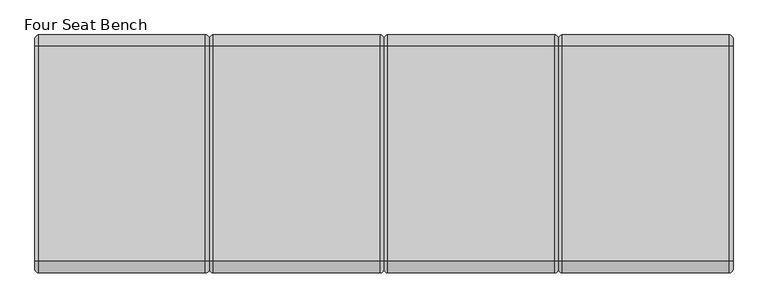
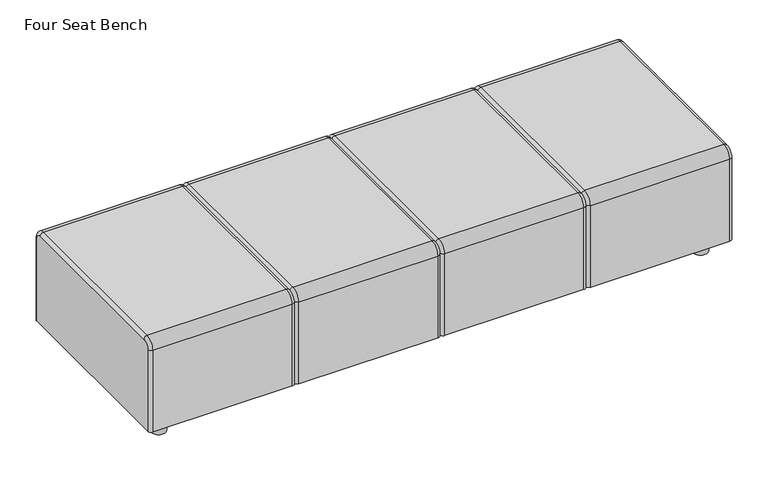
"""IFC4 building model written with IfcOpenShell, lengths in millimetres: furniture geometry, Steelcase Coalesse - Await - Seating - Modular : Four Seat Bench."""

import ifcopenshell
import ifcopenshell.guid

model = None  # the IFC model being written
_history = None  # IfcOwnerHistory: only IFC2X3 demands one
_inside = {}  # id of a spatial element -> (the spatial element, [elements in it])
_under = {}  # id of a project, library or spatial element -> (it, [spatial elements below it])
_declared = {}  # id of a project -> (the project, [libraries it declares])
_typed = {}  # id of a type object -> (the type object, [elements of that type])
_made_of = {}  # id of a material, layer set ... -> (it, [elements and type objects made of it])


def new_model(schema):
    """Start an empty IFC model of exactly this schema.

    Asked for "IFC4X3", IfcOpenShell would pick the latest addendum, in which some entities
    have other attributes; the version numbers below select the first issue.
    IFC2X3 requires an IfcOwnerHistory on every rooted entity: one is made here for all.
    """
    global model, _history
    if schema == "IFC4X3":
        model = ifcopenshell.file(schema_version=(4, 3, 0, 0))
    else:
        model = ifcopenshell.file(schema=schema)
    _inside.clear()
    _under.clear()
    _declared.clear()
    _typed.clear()
    _made_of.clear()
    _history = None
    if model.schema == "IFC2X3":
        org = make("IfcOrganization", Name="unknown")
        user = make(
            "IfcPersonAndOrganization",
            ThePerson=make("IfcPerson", FamilyName="unknown"),
            TheOrganization=org,
        )
        app = make(
            "IfcApplication",
            ApplicationDeveloper=org,
            Version="unknown",
            ApplicationFullName="unknown",
            ApplicationIdentifier="unknown",
        )
        _history = make(
            "IfcOwnerHistory",
            OwningUser=user,
            OwningApplication=app,
            ChangeAction="ADDED",
            CreationDate=0,
        )
    return model


def make(cls, **values):
    """One entity of the class cls with the attributes given. An attribute that is None is left unset."""
    return model.create_entity(
        cls, **{name: value for name, value in values.items() if value is not None}
    )


def rooted(cls, **values):
    """An entity with a GlobalId (a new one), such as an element, a storey or a relation."""
    return make(cls, GlobalId=ifcopenshell.guid.new(), OwnerHistory=_history, **values)


def si_unit(unit_type, name, prefix=None):
    """IfcSIUnit, for example si_unit("LENGTHUNIT", "METRE", prefix="MILLI")."""
    return make("IfcSIUnit", UnitType=unit_type, Prefix=prefix, Name=name)


def assignment(units):
    """IfcUnitAssignment: the units of a project."""
    return None if units is None else make("IfcUnitAssignment", Units=units)


def point(xyz):
    """IfcCartesianPoint."""
    return None if xyz is None else make("IfcCartesianPoint", Coordinates=xyz)


def direction(xyz):
    """IfcDirection."""
    return None if xyz is None else make("IfcDirection", DirectionRatios=xyz)


def frame(location, z_axis=None, x_axis=None):
    """IfcAxis2Placement3D, a coordinate frame: its origin and axes. An axis left out is left unset."""
    return make(
        "IfcAxis2Placement3D",
        Location=point(location),
        Axis=direction(z_axis),
        RefDirection=direction(x_axis),
    )


def frame_2d(location, x_axis=None):
    """IfcAxis2Placement2D, a coordinate frame in the plane: its origin and x axis."""
    return make(
        "IfcAxis2Placement2D", Location=point(location), RefDirection=direction(x_axis)
    )


def origin():
    """The frame at (0, 0, 0) with its axes left unset."""
    return frame((0.0, 0.0, 0.0))


def origin_with_axes():
    """The frame at (0, 0, 0) with the z axis (0, 0, 1) and the x axis (1, 0, 0) written out."""
    return frame((0.0, 0.0, 0.0), z_axis=(0.0, 0.0, 1.0), x_axis=(1.0, 0.0, 0.0))


def place(relative_to, where):
    """IfcLocalPlacement: puts the frame where relative to a parent placement (None: the world)."""
    return make(
        "IfcLocalPlacement", PlacementRelTo=relative_to, RelativePlacement=where
    )


def context(
    kind, dimensions, precision=None, world=None, true_north=None, identifier=None
):
    """IfcGeometricRepresentationContext, for example the 3D "Model" context."""
    return make(
        "IfcGeometricRepresentationContext",
        ContextIdentifier=identifier,
        ContextType=kind,
        CoordinateSpaceDimension=dimensions,
        Precision=precision,
        WorldCoordinateSystem=world,
        TrueNorth=true_north,
    )


def project(units=None, contexts=None):
    """IfcProject with its units and contexts."""
    return rooted(
        "IfcProject",
        Name="project",
        RepresentationContexts=contexts,
        UnitsInContext=assignment(units),
    )


def spatial(cls, under=None, at=None, **own):
    """A site, building, storey or space (cls), placed at a placement, below another one or the project."""
    s = rooted(cls, ObjectPlacement=at, **own)
    if under is not None:
        _under.setdefault(under.id(), (under, []))[1].append(s)
    return s


def circle_curve(where, radius):
    """IfcCircle in the frame where."""
    return make("IfcCircle", Position=where, Radius=radius)


def ellipse_curve(where, semi_axis1, semi_axis2):
    """IfcEllipse in the frame where."""
    return make(
        "IfcEllipse", Position=where, SemiAxis1=semi_axis1, SemiAxis2=semi_axis2
    )


def trimmed(basis, trim1, trim2, sense, master):
    """IfcTrimmedCurve: the piece of a basis curve between two trims."""
    return make(
        "IfcTrimmedCurve",
        BasisCurve=basis,
        Trim1=trim1,
        Trim2=trim2,
        SenseAgreement=sense,
        MasterRepresentation=master,
    )


def segment(curve, same_sense, transition):
    """IfcCompositeCurveSegment."""
    return make(
        "IfcCompositeCurveSegment",
        Transition=transition,
        SameSense=same_sense,
        ParentCurve=curve,
    )


def composite_curve(segments, self_intersect=None):
    """IfcCompositeCurve: segments joined end to end."""
    return make("IfcCompositeCurve", Segments=segments, SelfIntersect=self_intersect)


def outline(outer, holes=None, kind="AREA"):
    """IfcArbitraryClosedProfileDef: a profile drawn as a closed curve; with holes, ...WithVoids."""
    if holes is None:
        return make("IfcArbitraryClosedProfileDef", ProfileType=kind, OuterCurve=outer)
    return make(
        "IfcArbitraryProfileDefWithVoids",
        ProfileType=kind,
        OuterCurve=outer,
        InnerCurves=holes,
    )


def extrude(swept, where, along, depth):
    """IfcExtrudedAreaSolid: the profile swept, set in the frame where, extruded along a direction by depth."""
    return make(
        "IfcExtrudedAreaSolid",
        SweptArea=swept,
        Position=where,
        ExtrudedDirection=direction(along),
        Depth=depth,
    )


def shape(context_of_items, identifier, shape_type, items):
    """IfcShapeRepresentation: the items that make up one representation, for example the "Body"."""
    return make(
        "IfcShapeRepresentation",
        ContextOfItems=context_of_items,
        RepresentationIdentifier=identifier,
        RepresentationType=shape_type,
        Items=items,
    )


def source(mapping_origin, context_of_items, identifier, shape_type, items):
    """IfcRepresentationMap: a shape defined once, which mapped items show again and again."""
    return make(
        "IfcRepresentationMap",
        MappingOrigin=mapping_origin,
        MappedRepresentation=shape(context_of_items, identifier, shape_type, items),
    )


def transform(
    local_origin,
    x_axis=None,
    y_axis=None,
    z_axis=None,
    scale=None,
    scale2=None,
    scale3=None,
    uniform=True,
):
    """IfcCartesianTransformationOperator3D, or its non-uniform kind. x_axis, y_axis, z_axis: its Axis1, 2, 3."""
    if uniform:
        return make(
            "IfcCartesianTransformationOperator3D",
            Axis1=direction(x_axis),
            Axis2=direction(y_axis),
            LocalOrigin=point(local_origin),
            Scale=scale,
            Axis3=direction(z_axis),
        )
    return make(
        "IfcCartesianTransformationOperator3DnonUniform",
        Axis1=direction(x_axis),
        Axis2=direction(y_axis),
        LocalOrigin=point(local_origin),
        Scale=scale,
        Axis3=direction(z_axis),
        Scale2=scale2,
        Scale3=scale3,
    )


def mapped(mapping_source, mapping_target):
    """IfcMappedItem: shows the shape of a source again, moved by a transform."""
    return make(
        "IfcMappedItem", MappingSource=mapping_source, MappingTarget=mapping_target
    )


def made_of(thing, what):
    """Note that an element or type object is made of a material, layer set ...; save() writes the relation."""
    if what is not None:
        _made_of.setdefault(what.id(), (what, []))[1].append(thing)
    return thing


def element(
    cls,
    number,
    at=None,
    inside=None,
    cuts=None,
    type_object=None,
    material=None,
    context=None,
    identifier="Body",
    shape_type=None,
    held_by="IfcProductDefinitionShape",
    body=None,
    shapes=None,
    **own,
):
    """One element of the class cls, such as IfcWall. Its Tag is "e" and its number.

    at: its placement. inside: the storey or other place that contains it. cuts: it is an
    opening in that element (IfcRelVoidsElement). A single representation is given by context,
    identifier, shape_type and body (its items); several are given by shapes. held_by: the class
    of the entity that holds the representations. save() writes the other relations.
    """
    e = rooted(cls, Tag="e%d" % number, ObjectPlacement=at, **own)
    if body is not None:
        shapes = [shape(context, identifier, shape_type, body)]
    if shapes is not None:
        e.Representation = make(held_by, Representations=shapes)
    if inside is not None:
        _inside.setdefault(inside.id(), (inside, []))[1].append(e)
    if cuts is not None:
        rooted(
            "IfcRelVoidsElement", RelatingBuildingElement=cuts, RelatedOpeningElement=e
        )
    if type_object is not None:
        _typed.setdefault(type_object.id(), (type_object, []))[1].append(e)
    return made_of(e, material)


def aggregate(whole, parts):
    """IfcRelAggregates: a whole, such as a stair, and the parts it consists of."""
    return rooted("IfcRelAggregates", RelatingObject=whole, RelatedObjects=parts)


def save(model, path):
    """Write the relations noted so far, then the file.

    IfcRelAggregates (storeys below a building ...), IfcRelContainedInSpatialStructure (elements
    in a storey), IfcRelDefinesByType, IfcRelAssociatesMaterial and IfcRelDeclares: one each for
    every whole, place, type object, material and project.
    """
    for whole, parts in _under.values():
        aggregate(whole, parts)
    for where, things in _inside.values():
        rooted(
            "IfcRelContainedInSpatialStructure",
            RelatedElements=things,
            RelatingStructure=where,
        )
    for kind, things in _typed.values():
        rooted("IfcRelDefinesByType", RelatedObjects=things, RelatingType=kind)
    for what, things in _made_of.values():
        rooted("IfcRelAssociatesMaterial", RelatedObjects=things, RelatingMaterial=what)
    for by, libraries in _declared.values():
        rooted("IfcRelDeclares", RelatingContext=by, RelatedDefinitions=libraries)
    model.write(path)


def plane_surface(at):
    """IfcPlane: the flat surface through the origin of the frame at, square to its z axis."""
    return make("IfcPlane", Position=at)


def cylinder_surface(at, radius):
    """IfcCylindricalSurface: all points at the distance radius from the z axis of the frame at."""
    return make("IfcCylindricalSurface", Position=at, Radius=radius)


def revolved_surface(curve, axis_point, axis_direction):
    """IfcSurfaceOfRevolution: the curve turned about the line through axis_point along axis_direction."""
    return make(
        "IfcSurfaceOfRevolution",
        SweptCurve=make("IfcArbitraryOpenProfileDef", ProfileType="CURVE", Curve=curve),
        AxisPosition=make("IfcAxis1Placement", Location=point(axis_point), Axis=direction(axis_direction)),
    )


def advanced_brep(points, edges, surfaces, faces):
    """IfcAdvancedBrep: a solid bounded by faces that lie on surfaces and meet in shared edges.

    An edge is (start, end): straight between two places in points (the first is 0);
    or (start, end, curve); or (start, end, curve, False) where it runs against its curve.
    A face is (place in surfaces, loops), or (place, loops, False) where it looks against
    its surface's normal. A loop lists edges by number (the first is 1), with a minus sign
    where the edge is run from its end to its start. The first loop is the outer one.
    """
    corners = [point(p) for p in points]
    vertices = [make("IfcVertexPoint", VertexGeometry=c) for c in corners]
    made = []
    for start, end, *more in edges:
        made.append(
            make(
                "IfcEdgeCurve",
                EdgeStart=vertices[start],
                EdgeEnd=vertices[end],
                EdgeGeometry=more[0] if more else make("IfcPolyline", Points=[corners[start], corners[end]]),
                SameSense=more[1] if len(more) > 1 else True,
            )
        )
    hull = []
    for where, loops, *sense in faces:
        bounds = []
        for j, loop in enumerate(loops):
            ring = [make("IfcOrientedEdge", EdgeElement=made[abs(k) - 1], Orientation=k > 0) for k in loop]
            bounds.append(
                make(
                    "IfcFaceOuterBound" if j == 0 else "IfcFaceBound",
                    Bound=make("IfcEdgeLoop", EdgeList=ring),
                    Orientation=True,
                )
            )
        hull.append(make("IfcAdvancedFace", Bounds=bounds, FaceSurface=surfaces[where], SameSense=sense[0] if sense else True))
    return make("IfcAdvancedBrep", Outer=make("IfcClosedShell", CfsFaces=hull))


def four_seat_bench_2a4f48d7(model_context):
    return source(origin(), model_context, "Body", "SolidModel", [
        advanced_brep(
        [(1012.4820962, 393.3623127, 63.5), (1025.0654254, 405.9456418, 63.5), (1558.4886405, 405.9456418, 63.5), (1571.2821022, 393.1521801, 63.5), (1571.2821022, -343.2608965, 63.5), (1558.4886405, -356.0543582, 63.5), (1025.0654254, -356.0543582, 63.5), (1012.4820962, -343.471029, 63.5), (1012.4820962, -343.471029, 393.6999879), (1012.4820962, -317.9543582, 419.2166587), (1012.4820962, 370.1950719, 419.2166587), (1012.4820962, 393.3623127, 396.049418), (1571.2821022, 393.1521801, 396.049418), (1571.2821022, 370.1950719, 419.0065262), (1571.2821022, -317.9543582, 419.0065262), (1571.2821022, -343.2608965, 393.6999879), (1558.4886405, -356.0543582, 393.6999879), (1025.0654254, -356.0543582, 393.6999879), (1558.4886405, -317.9543582, 431.7999879), (1025.0654254, -317.9543582, 431.7999879), (1558.4886405, 370.1950719, 431.7999879), (1025.0654254, 370.1950719, 431.7999879), (1558.4886405, 405.9456418, 396.049418), (1025.0654254, 405.9456418, 396.049418)],
        [
            (0, 1, circle_curve(frame((1025.0654254, 393.3623127, 63.5), z_axis=(0.0, 0.0, -1.0), x_axis=(0.0, 1.0, 0.0)), 12.5833292)),
            (1, 2),
            (2, 3, circle_curve(frame((1558.4886405, 393.1521801, 63.5), z_axis=(0.0, 0.0, -1.0), x_axis=(0.0, 1.0, 0.0)), 12.7934617)),
            (3, 4),
            (4, 5, circle_curve(frame((1558.4886405, -343.2608965, 63.5), z_axis=(0.0, 0.0, -1.0), x_axis=(0.0, -1.0, 0.0)), 12.7934617)),
            (5, 6),
            (6, 7, circle_curve(frame((1025.0654254, -343.471029, 63.5), z_axis=(0.0, 0.0, -1.0), x_axis=(0.0, -1.0, 0.0)), 12.5833292)),
            (7, 0),
            (7, 8),
            (8, 9, circle_curve(frame((1012.4820962, -317.9543582, 393.6999879), z_axis=(-1.0, 0.0, 0.0), x_axis=(0.0, -1.0, 0.0)), 25.5166708)),
            (9, 10),
            (10, 11, circle_curve(frame((1012.4820962, 370.1950719, 396.049418), z_axis=(-1.0, 0.0, 0.0), x_axis=(0.0, 0.0, 1.0)), 23.1672407)),
            (11, 0),
            (3, 12),
            (12, 13, circle_curve(frame((1571.2821022, 370.1950719, 396.049418), z_axis=(1.0, 0.0, 0.0), x_axis=(0.0, 0.0, 1.0)), 22.9571082)),
            (13, 14),
            (14, 15, circle_curve(frame((1571.2821022, -317.9543582, 393.6999879), z_axis=(1.0, 0.0, 0.0), x_axis=(0.0, -1.0, 0.0)), 25.3065383)),
            (15, 4),
            (15, 16, circle_curve(frame((1558.4886405, -343.2608965, 393.6999879), z_axis=(0.0, 0.0, -1.0), x_axis=(0.0, -1.0, 0.0)), 12.7934617)),
            (16, 5),
            (16, 17),
            (17, 6),
            (17, 8, circle_curve(frame((1025.0654254, -343.471029, 393.6999879), z_axis=(0.0, 0.0, -1.0), x_axis=(0.0, -1.0, 0.0)), 12.5833292)),
            (14, 18, circle_curve(frame((1558.4886405, -317.9543582, 419.0065262), z_axis=(0.0, -1.0, 0.0), x_axis=(0.0, 0.0, 1.0)), 12.7934617)),
            (18, 16, circle_curve(frame((1558.4886405, -317.9543582, 393.6999879), z_axis=(1.0, 0.0, 0.0), x_axis=(0.0, -1.0, 0.0)), 38.1)),
            (18, 19),
            (19, 17, circle_curve(frame((1025.0654254, -317.9543582, 393.6999879), z_axis=(1.0, 0.0, 0.0), x_axis=(0.0, -1.0, 0.0)), 38.1)),
            (19, 9, circle_curve(frame((1025.0654254, -317.9543582, 419.2166587), z_axis=(0.0, -1.0, 0.0), x_axis=(0.0, 0.0, 1.0)), 12.5833292)),
            (13, 20, circle_curve(frame((1558.4886405, 370.1950719, 419.0065262), z_axis=(0.0, -1.0, 0.0), x_axis=(0.0, 0.0, 1.0)), 12.7934617)),
            (20, 18),
            (20, 21),
            (21, 19),
            (21, 10, circle_curve(frame((1025.0654254, 370.1950719, 419.2166587), z_axis=(0.0, -1.0, 0.0), x_axis=(0.0, 0.0, 1.0)), 12.5833292)),
            (12, 22, circle_curve(frame((1558.4886405, 393.1521801, 396.049418), z_axis=(0.0, 0.0, 1.0), x_axis=(0.0, 1.0, 0.0)), 12.7934617)),
            (22, 20, circle_curve(frame((1558.4886405, 370.1950719, 396.049418), z_axis=(1.0, 0.0, 0.0), x_axis=(0.0, 0.0, 1.0)), 35.7505699)),
            (22, 23),
            (23, 21, circle_curve(frame((1025.0654254, 370.1950719, 396.049418), z_axis=(1.0, 0.0, 0.0), x_axis=(0.0, 0.0, 1.0)), 35.7505699)),
            (23, 11, circle_curve(frame((1025.0654254, 393.3623127, 396.049418), z_axis=(0.0, 0.0, 1.0), x_axis=(0.0, 1.0, 0.0)), 12.5833292)),
            (2, 22),
            (1, 23),
        ],
        [
            plane_surface(frame((1676.4000182, -330.6543582, 63.5), z_axis=(0.0, 0.0, -1.0), x_axis=(1.0, 0.0, 0.0))),
            plane_surface(frame((1012.4820962, -343.471029, 63.5), z_axis=(-1.0, 0.0, 0.0), x_axis=(0.0, 0.0, 1.0))),
            plane_surface(frame((1571.2821022, -330.6543582, 63.5), z_axis=(1.0, 0.0, 0.0), x_axis=(0.0, 0.0, 1.0))),
            cylinder_surface(frame((1558.4886405, -343.2608965, 63.5), z_axis=(0.0, 0.0, -1.0), x_axis=(0.0, -1.0, 0.0)), 12.7934617),
            plane_surface(frame((1558.4886405, -356.0543582, 63.5), z_axis=(0.0, -1.0, 0.0), x_axis=(0.0, 0.0, 1.0))),
            cylinder_surface(frame((1025.0654254, -343.471029, 63.5), z_axis=(0.0, 0.0, -1.0), x_axis=(0.0, -1.0, 0.0)), 12.5833292),
            revolved_surface(trimmed(ellipse_curve(frame((1558.4886405, -343.2608965, 393.6999879), z_axis=(0.0, 0.0, -1.0), x_axis=(0.0, -1.0, 0.0)), 12.7934617, 12.7934617), [point((1571.2821022, -343.2608965, 393.6999879))], [point((1558.4886405, -356.0543582, 393.6999879))], True, "CARTESIAN"), (1676.4000182, -317.9543582, 393.6999879), (-1.0, 0.0, 0.0)),
            cylinder_surface(frame((1676.4000182, -317.9543582, 393.6999879), z_axis=(-1.0, 0.0, 0.0), x_axis=(0.0, -1.0, 0.0)), 38.1),
            revolved_surface(trimmed(ellipse_curve(frame((1025.0654254, -343.471029, 393.6999879), z_axis=(0.0, 0.0, -1.0), x_axis=(0.0, -1.0, 0.0)), 12.5833292, 12.5833292), [point((1025.0654254, -356.0543582, 393.6999879))], [point((1012.4820962, -343.471029, 393.6999879))], True, "CARTESIAN"), (1676.4000182, -317.9543582, 393.6999879), (-1.0, 0.0, 0.0)),
            cylinder_surface(frame((1558.4886405, -317.9543582, 419.0065262), z_axis=(0.0, -1.0, 0.0), x_axis=(0.0, 0.0, 1.0)), 12.7934617),
            plane_surface(frame((1558.4886405, -317.9543582, 431.7999879), z_axis=(0.0, 0.0, 1.0), x_axis=(0.0, 1.0, 0.0))),
            cylinder_surface(frame((1025.0654254, -317.9543582, 419.2166587), z_axis=(0.0, -1.0, 0.0), x_axis=(0.0, 0.0, 1.0)), 12.5833292),
            revolved_surface(trimmed(ellipse_curve(frame((1558.4886405, 370.1950719, 419.0065262), z_axis=(0.0, -1.0, 0.0), x_axis=(0.0, 0.0, 1.0)), 12.7934617, 12.7934617), [point((1571.2821022, 370.1950719, 419.0065262))], [point((1558.4886405, 370.1950719, 431.7999879))], True, "CARTESIAN"), (1676.4000182, 370.1950719, 396.049418), (-1.0, 0.0, 0.0)),
            cylinder_surface(frame((1676.4000182, 370.1950719, 396.049418), z_axis=(-1.0, 0.0, 0.0), x_axis=(0.0, 0.0, 1.0)), 35.7505699),
            revolved_surface(trimmed(ellipse_curve(frame((1025.0654254, 370.1950719, 419.2166587), z_axis=(0.0, -1.0, 0.0), x_axis=(0.0, 0.0, 1.0)), 12.5833292, 12.5833292), [point((1025.0654254, 370.1950719, 431.7999879))], [point((1012.4820962, 370.1950719, 419.2166587))], True, "CARTESIAN"), (1676.4000182, 370.1950719, 396.049418), (-1.0, 0.0, 0.0)),
            cylinder_surface(frame((1558.4886405, 393.1521801, 396.049418), z_axis=(0.0, 0.0, 1.0), x_axis=(0.0, 1.0, 0.0)), 12.7934617),
            plane_surface(frame((1558.4886405, 405.9456418, 396.049418), z_axis=(0.0, 1.0, 0.0), x_axis=(0.0, 0.0, -1.0))),
            cylinder_surface(frame((1025.0654254, 393.3623127, 396.049418), z_axis=(0.0, 0.0, 1.0), x_axis=(0.0, 1.0, 0.0)), 12.5833292),
        ],
        [
            (0, [[1, 2, 3, 4, 5, 6, 7, 8]]),
            (1, [[-8, 9, 10, 11, 12, 13]]),
            (2, [[-4, 14, 15, 16, 17, 18]]),
            (3, [[-5, -18, 19, 20]]),
            (4, [[-6, -20, 21, 22]]),
            (5, [[-7, -22, 23, -9]]),
            (6, [[-17, 24, 25, -19]]),
            (7, [[-21, -25, 26, 27]]),
            (8, [[-10, -23, -27, 28]]),
            (9, [[-16, 29, 30, -24]]),
            (10, [[-26, -30, 31, 32]]),
            (11, [[-11, -28, -32, 33]]),
            (12, [[-15, 34, 35, -29]]),
            (13, [[-31, -35, 36, 37]]),
            (14, [[-12, -33, -37, 38]]),
            (15, [[-14, -3, 39, -34]]),
            (16, [[-36, -39, -2, 40]]),
            (17, [[-13, -38, -40, -1]]),
        ],
    ),
        advanced_brep(
        [(453.6820901, 393.3623127, 63.5), (466.2654193, 405.9456418, 63.5), (999.6886345, 405.9456418, 63.5), (1012.4820962, 393.1521801, 63.5), (1012.4820962, -343.2608965, 63.5), (999.6886345, -356.0543582, 63.5), (466.2654193, -356.0543582, 63.5), (453.6820901, -343.471029, 63.5), (453.6820901, -343.471029, 393.6999879), (453.6820901, -317.9543582, 419.2166587), (453.6820901, 370.1950719, 419.2166587), (453.6820901, 393.3623127, 396.049418), (1012.4820962, 393.1521801, 396.049418), (1012.4820962, 370.1950719, 419.0065262), (1012.4820962, -317.9543582, 419.0065262), (1012.4820962, -343.2608965, 393.6999879), (999.6886345, -356.0543582, 393.6999879), (466.2654193, -356.0543582, 393.6999879), (999.6886345, -317.9543582, 431.7999879), (466.2654193, -317.9543582, 431.7999879), (999.6886345, 370.1950719, 431.7999879), (466.2654193, 370.1950719, 431.7999879), (999.6886345, 405.9456418, 396.049418), (466.2654193, 405.9456418, 396.049418)],
        [
            (0, 1, circle_curve(frame((466.2654193, 393.3623127, 63.5), z_axis=(0.0, 0.0, -1.0), x_axis=(0.0, 1.0, 0.0)), 12.5833292)),
            (1, 2),
            (2, 3, circle_curve(frame((999.6886345, 393.1521801, 63.5), z_axis=(0.0, 0.0, -1.0), x_axis=(0.0, 1.0, 0.0)), 12.7934617)),
            (3, 4),
            (4, 5, circle_curve(frame((999.6886345, -343.2608965, 63.5), z_axis=(0.0, 0.0, -1.0), x_axis=(0.0, -1.0, 0.0)), 12.7934617)),
            (5, 6),
            (6, 7, circle_curve(frame((466.2654193, -343.471029, 63.5), z_axis=(0.0, 0.0, -1.0), x_axis=(0.0, -1.0, 0.0)), 12.5833292)),
            (7, 0),
            (7, 8),
            (8, 9, circle_curve(frame((453.6820901, -317.9543582, 393.6999879), z_axis=(-1.0, 0.0, 0.0), x_axis=(0.0, -1.0, 0.0)), 25.5166708)),
            (9, 10),
            (10, 11, circle_curve(frame((453.6820901, 370.1950719, 396.049418), z_axis=(-1.0, 0.0, 0.0), x_axis=(0.0, 0.0, 1.0)), 23.1672407)),
            (11, 0),
            (3, 12),
            (12, 13, circle_curve(frame((1012.4820962, 370.1950719, 396.049418), z_axis=(1.0, 0.0, 0.0), x_axis=(0.0, 0.0, 1.0)), 22.9571082)),
            (13, 14),
            (14, 15, circle_curve(frame((1012.4820962, -317.9543582, 393.6999879), z_axis=(1.0, 0.0, 0.0), x_axis=(0.0, -1.0, 0.0)), 25.3065383)),
            (15, 4),
            (15, 16, circle_curve(frame((999.6886345, -343.2608965, 393.6999879), z_axis=(0.0, 0.0, -1.0), x_axis=(0.0, -1.0, 0.0)), 12.7934617)),
            (16, 5),
            (16, 17),
            (17, 6),
            (17, 8, circle_curve(frame((466.2654193, -343.471029, 393.6999879), z_axis=(0.0, 0.0, -1.0), x_axis=(0.0, -1.0, 0.0)), 12.5833292)),
            (14, 18, circle_curve(frame((999.6886345, -317.9543582, 419.0065262), z_axis=(0.0, -1.0, 0.0), x_axis=(0.0, 0.0, 1.0)), 12.7934617)),
            (18, 16, circle_curve(frame((999.6886345, -317.9543582, 393.6999879), z_axis=(1.0, 0.0, 0.0), x_axis=(0.0, -1.0, 0.0)), 38.1)),
            (18, 19),
            (19, 17, circle_curve(frame((466.2654193, -317.9543582, 393.6999879), z_axis=(1.0, 0.0, 0.0), x_axis=(0.0, -1.0, 0.0)), 38.1)),
            (19, 9, circle_curve(frame((466.2654193, -317.9543582, 419.2166587), z_axis=(0.0, -1.0, 0.0), x_axis=(0.0, 0.0, 1.0)), 12.5833292)),
            (13, 20, circle_curve(frame((999.6886345, 370.1950719, 419.0065262), z_axis=(0.0, -1.0, 0.0), x_axis=(0.0, 0.0, 1.0)), 12.7934617)),
            (20, 18),
            (20, 21),
            (21, 19),
            (21, 10, circle_curve(frame((466.2654193, 370.1950719, 419.2166587), z_axis=(0.0, -1.0, 0.0), x_axis=(0.0, 0.0, 1.0)), 12.5833292)),
            (12, 22, circle_curve(frame((999.6886345, 393.1521801, 396.049418), z_axis=(0.0, 0.0, 1.0), x_axis=(0.0, 1.0, 0.0)), 12.7934617)),
            (22, 20, circle_curve(frame((999.6886345, 370.1950719, 396.049418), z_axis=(1.0, 0.0, 0.0), x_axis=(0.0, 0.0, 1.0)), 35.7505699)),
            (22, 23),
            (23, 21, circle_curve(frame((466.2654193, 370.1950719, 396.049418), z_axis=(1.0, 0.0, 0.0), x_axis=(0.0, 0.0, 1.0)), 35.7505699)),
            (23, 11, circle_curve(frame((466.2654193, 393.3623127, 396.049418), z_axis=(0.0, 0.0, 1.0), x_axis=(0.0, 1.0, 0.0)), 12.5833292)),
            (2, 22),
            (1, 23),
        ],
        [
            plane_surface(frame((1117.6000121, -330.6543582, 63.5), z_axis=(0.0, 0.0, -1.0), x_axis=(1.0, 0.0, 0.0))),
            plane_surface(frame((453.6820901, -343.471029, 63.5), z_axis=(-1.0, 0.0, 0.0), x_axis=(0.0, 0.0, 1.0))),
            plane_surface(frame((1012.4820962, -330.6543582, 63.5), z_axis=(1.0, 0.0, 0.0), x_axis=(0.0, 0.0, 1.0))),
            cylinder_surface(frame((999.6886345, -343.2608965, 63.5), z_axis=(0.0, 0.0, -1.0), x_axis=(0.0, -1.0, 0.0)), 12.7934617),
            plane_surface(frame((999.6886345, -356.0543582, 63.5), z_axis=(0.0, -1.0, 0.0), x_axis=(0.0, 0.0, 1.0))),
            cylinder_surface(frame((466.2654193, -343.471029, 63.5), z_axis=(0.0, 0.0, -1.0), x_axis=(0.0, -1.0, 0.0)), 12.5833292),
            revolved_surface(trimmed(ellipse_curve(frame((999.6886345, -343.2608965, 393.6999879), z_axis=(0.0, 0.0, -1.0), x_axis=(0.0, -1.0, 0.0)), 12.7934617, 12.7934617), [point((1012.4820962, -343.2608965, 393.6999879))], [point((999.6886345, -356.0543582, 393.6999879))], True, "CARTESIAN"), (1117.6000121, -317.9543582, 393.6999879), (-1.0, 0.0, 0.0)),
            cylinder_surface(frame((1117.6000121, -317.9543582, 393.6999879), z_axis=(-1.0, 0.0, 0.0), x_axis=(0.0, -1.0, 0.0)), 38.1),
            revolved_surface(trimmed(ellipse_curve(frame((466.2654193, -343.471029, 393.6999879), z_axis=(0.0, 0.0, -1.0), x_axis=(0.0, -1.0, 0.0)), 12.5833292, 12.5833292), [point((466.2654193, -356.0543582, 393.6999879))], [point((453.6820901, -343.471029, 393.6999879))], True, "CARTESIAN"), (1117.6000121, -317.9543582, 393.6999879), (-1.0, 0.0, 0.0)),
            cylinder_surface(frame((999.6886345, -317.9543582, 419.0065262), z_axis=(0.0, -1.0, 0.0), x_axis=(0.0, 0.0, 1.0)), 12.7934617),
            plane_surface(frame((999.6886345, -317.9543582, 431.7999879), z_axis=(0.0, 0.0, 1.0), x_axis=(0.0, 1.0, 0.0))),
            cylinder_surface(frame((466.2654193, -317.9543582, 419.2166587), z_axis=(0.0, -1.0, 0.0), x_axis=(0.0, 0.0, 1.0)), 12.5833292),
            revolved_surface(trimmed(ellipse_curve(frame((999.6886345, 370.1950719, 419.0065262), z_axis=(0.0, -1.0, 0.0), x_axis=(0.0, 0.0, 1.0)), 12.7934617, 12.7934617), [point((1012.4820962, 370.1950719, 419.0065262))], [point((999.6886345, 370.1950719, 431.7999879))], True, "CARTESIAN"), (1117.6000121, 370.1950719, 396.049418), (-1.0, 0.0, 0.0)),
            cylinder_surface(frame((1117.6000121, 370.1950719, 396.049418), z_axis=(-1.0, 0.0, 0.0), x_axis=(0.0, 0.0, 1.0)), 35.7505699),
            revolved_surface(trimmed(ellipse_curve(frame((466.2654193, 370.1950719, 419.2166587), z_axis=(0.0, -1.0, 0.0), x_axis=(0.0, 0.0, 1.0)), 12.5833292, 12.5833292), [point((466.2654193, 370.1950719, 431.7999879))], [point((453.6820901, 370.1950719, 419.2166587))], True, "CARTESIAN"), (1117.6000121, 370.1950719, 396.049418), (-1.0, 0.0, 0.0)),
            cylinder_surface(frame((999.6886345, 393.1521801, 396.049418), z_axis=(0.0, 0.0, 1.0), x_axis=(0.0, 1.0, 0.0)), 12.7934617),
            plane_surface(frame((999.6886345, 405.9456418, 396.049418), z_axis=(0.0, 1.0, 0.0), x_axis=(0.0, 0.0, -1.0))),
            cylinder_surface(frame((466.2654193, 393.3623127, 396.049418), z_axis=(0.0, 0.0, 1.0), x_axis=(0.0, 1.0, 0.0)), 12.5833292),
        ],
        [
            (0, [[1, 2, 3, 4, 5, 6, 7, 8]]),
            (1, [[-8, 9, 10, 11, 12, 13]]),
            (2, [[-4, 14, 15, 16, 17, 18]]),
            (3, [[-5, -18, 19, 20]]),
            (4, [[-6, -20, 21, 22]]),
            (5, [[-7, -22, 23, -9]]),
            (6, [[-17, 24, 25, -19]]),
            (7, [[-21, -25, 26, 27]]),
            (8, [[-10, -23, -27, 28]]),
            (9, [[-16, 29, 30, -24]]),
            (10, [[-26, -30, 31, 32]]),
            (11, [[-11, -28, -32, 33]]),
            (12, [[-15, 34, 35, -29]]),
            (13, [[-31, -35, 36, 37]]),
            (14, [[-12, -33, -37, 38]]),
            (15, [[-14, -3, 39, -34]]),
            (16, [[-36, -39, -2, 40]]),
            (17, [[-13, -38, -40, -1]]),
        ],
    ),
        advanced_brep(
        [(-105.1179159, 393.3623127, 63.5), (-92.5345867, 405.9456418, 63.5), (440.8886284, 405.9456418, 63.5), (453.6820901, 393.1521801, 63.5), (453.6820901, -343.2608965, 63.5), (440.8886284, -356.0543582, 63.5), (-92.5345867, -356.0543582, 63.5), (-105.1179159, -343.471029, 63.5), (-105.1179159, -343.471029, 393.6999879), (-105.1179159, -317.9543582, 419.2166587), (-105.1179159, 370.1950719, 419.2166587), (-105.1179159, 393.3623127, 396.049418), (453.6820901, 393.1521801, 396.049418), (453.6820901, 370.1950719, 419.0065262), (453.6820901, -317.9543582, 419.0065262), (453.6820901, -343.2608965, 393.6999879), (440.8886284, -356.0543582, 393.6999879), (-92.5345867, -356.0543582, 393.6999879), (440.8886284, -317.9543582, 431.7999879), (-92.5345867, -317.9543582, 431.7999879), (440.8886284, 370.1950719, 431.7999879), (-92.5345867, 370.1950719, 431.7999879), (440.8886284, 405.9456418, 396.049418), (-92.5345867, 405.9456418, 396.049418)],
        [
            (0, 1, circle_curve(frame((-92.5345867, 393.3623127, 63.5), z_axis=(0.0, 0.0, -1.0), x_axis=(0.0, 1.0, 0.0)), 12.5833292)),
            (1, 2),
            (2, 3, circle_curve(frame((440.8886284, 393.1521801, 63.5), z_axis=(0.0, 0.0, -1.0), x_axis=(0.0, 1.0, 0.0)), 12.7934617)),
            (3, 4),
            (4, 5, circle_curve(frame((440.8886284, -343.2608965, 63.5), z_axis=(0.0, 0.0, -1.0), x_axis=(0.0, -1.0, 0.0)), 12.7934617)),
            (5, 6),
            (6, 7, circle_curve(frame((-92.5345867, -343.471029, 63.5), z_axis=(0.0, 0.0, -1.0), x_axis=(0.0, -1.0, 0.0)), 12.5833292)),
            (7, 0),
            (7, 8),
            (8, 9, circle_curve(frame((-105.1179159, -317.9543582, 393.6999879), z_axis=(-1.0, 0.0, 0.0), x_axis=(0.0, -1.0, 0.0)), 25.5166708)),
            (9, 10),
            (10, 11, circle_curve(frame((-105.1179159, 370.1950719, 396.049418), z_axis=(-1.0, 0.0, 0.0), x_axis=(0.0, 0.0, 1.0)), 23.1672407)),
            (11, 0),
            (3, 12),
            (12, 13, circle_curve(frame((453.6820901, 370.1950719, 396.049418), z_axis=(1.0, 0.0, 0.0), x_axis=(0.0, 0.0, 1.0)), 22.9571082)),
            (13, 14),
            (14, 15, circle_curve(frame((453.6820901, -317.9543582, 393.6999879), z_axis=(1.0, 0.0, 0.0), x_axis=(0.0, -1.0, 0.0)), 25.3065383)),
            (15, 4),
            (15, 16, circle_curve(frame((440.8886284, -343.2608965, 393.6999879), z_axis=(0.0, 0.0, -1.0), x_axis=(0.0, -1.0, 0.0)), 12.7934617)),
            (16, 5),
            (16, 17),
            (17, 6),
            (17, 8, circle_curve(frame((-92.5345867, -343.471029, 393.6999879), z_axis=(0.0, 0.0, -1.0), x_axis=(0.0, -1.0, 0.0)), 12.5833292)),
            (14, 18, circle_curve(frame((440.8886284, -317.9543582, 419.0065262), z_axis=(0.0, -1.0, 0.0), x_axis=(0.0, 0.0, 1.0)), 12.7934617)),
            (18, 16, circle_curve(frame((440.8886284, -317.9543582, 393.6999879), z_axis=(1.0, 0.0, 0.0), x_axis=(0.0, -1.0, 0.0)), 38.1)),
            (18, 19),
            (19, 17, circle_curve(frame((-92.5345867, -317.9543582, 393.6999879), z_axis=(1.0, 0.0, 0.0), x_axis=(0.0, -1.0, 0.0)), 38.1)),
            (19, 9, circle_curve(frame((-92.5345867, -317.9543582, 419.2166587), z_axis=(0.0, -1.0, 0.0), x_axis=(0.0, 0.0, 1.0)), 12.5833292)),
            (13, 20, circle_curve(frame((440.8886284, 370.1950719, 419.0065262), z_axis=(0.0, -1.0, 0.0), x_axis=(0.0, 0.0, 1.0)), 12.7934617)),
            (20, 18),
            (20, 21),
            (21, 19),
            (21, 10, circle_curve(frame((-92.5345867, 370.1950719, 419.2166587), z_axis=(0.0, -1.0, 0.0), x_axis=(0.0, 0.0, 1.0)), 12.5833292)),
            (12, 22, circle_curve(frame((440.8886284, 393.1521801, 396.049418), z_axis=(0.0, 0.0, 1.0), x_axis=(0.0, 1.0, 0.0)), 12.7934617)),
            (22, 20, circle_curve(frame((440.8886284, 370.1950719, 396.049418), z_axis=(1.0, 0.0, 0.0), x_axis=(0.0, 0.0, 1.0)), 35.7505699)),
            (22, 23),
            (23, 21, circle_curve(frame((-92.5345867, 370.1950719, 396.049418), z_axis=(1.0, 0.0, 0.0), x_axis=(0.0, 0.0, 1.0)), 35.7505699)),
            (23, 11, circle_curve(frame((-92.5345867, 393.3623127, 396.049418), z_axis=(0.0, 0.0, 1.0), x_axis=(0.0, 1.0, 0.0)), 12.5833292)),
            (2, 22),
            (1, 23),
        ],
        [
            plane_surface(frame((558.8000061, -330.6543582, 63.5), z_axis=(0.0, 0.0, -1.0), x_axis=(1.0, 0.0, 0.0))),
            plane_surface(frame((-105.1179159, -343.471029, 63.5), z_axis=(-1.0, 0.0, 0.0), x_axis=(0.0, 0.0, 1.0))),
            plane_surface(frame((453.6820901, -330.6543582, 63.5), z_axis=(1.0, 0.0, 0.0), x_axis=(0.0, 0.0, 1.0))),
            cylinder_surface(frame((440.8886284, -343.2608965, 63.5), z_axis=(0.0, 0.0, -1.0), x_axis=(0.0, -1.0, 0.0)), 12.7934617),
            plane_surface(frame((440.8886284, -356.0543582, 63.5), z_axis=(0.0, -1.0, 0.0), x_axis=(0.0, 0.0, 1.0))),
            cylinder_surface(frame((-92.5345867, -343.471029, 63.5), z_axis=(0.0, 0.0, -1.0), x_axis=(0.0, -1.0, 0.0)), 12.5833292),
            revolved_surface(trimmed(ellipse_curve(frame((440.8886284, -343.2608965, 393.6999879), z_axis=(0.0, 0.0, -1.0), x_axis=(0.0, -1.0, 0.0)), 12.7934617, 12.7934617), [point((453.6820901, -343.2608965, 393.6999879))], [point((440.8886284, -356.0543582, 393.6999879))], True, "CARTESIAN"), (558.8000061, -317.9543582, 393.6999879), (-1.0, 0.0, 0.0)),
            cylinder_surface(frame((558.8000061, -317.9543582, 393.6999879), z_axis=(-1.0, 0.0, 0.0), x_axis=(0.0, -1.0, 0.0)), 38.1),
            revolved_surface(trimmed(ellipse_curve(frame((-92.5345867, -343.471029, 393.6999879), z_axis=(0.0, 0.0, -1.0), x_axis=(0.0, -1.0, 0.0)), 12.5833292, 12.5833292), [point((-92.5345867, -356.0543582, 393.6999879))], [point((-105.1179159, -343.471029, 393.6999879))], True, "CARTESIAN"), (558.8000061, -317.9543582, 393.6999879), (-1.0, 0.0, 0.0)),
            cylinder_surface(frame((440.8886284, -317.9543582, 419.0065262), z_axis=(0.0, -1.0, 0.0), x_axis=(0.0, 0.0, 1.0)), 12.7934617),
            plane_surface(frame((440.8886284, -317.9543582, 431.7999879), z_axis=(0.0, 0.0, 1.0), x_axis=(0.0, 1.0, 0.0))),
            cylinder_surface(frame((-92.5345867, -317.9543582, 419.2166587), z_axis=(0.0, -1.0, 0.0), x_axis=(0.0, 0.0, 1.0)), 12.5833292),
            revolved_surface(trimmed(ellipse_curve(frame((440.8886284, 370.1950719, 419.0065262), z_axis=(0.0, -1.0, 0.0), x_axis=(0.0, 0.0, 1.0)), 12.7934617, 12.7934617), [point((453.6820901, 370.1950719, 419.0065262))], [point((440.8886284, 370.1950719, 431.7999879))], True, "CARTESIAN"), (558.8000061, 370.1950719, 396.049418), (-1.0, 0.0, 0.0)),
            cylinder_surface(frame((558.8000061, 370.1950719, 396.049418), z_axis=(-1.0, 0.0, 0.0), x_axis=(0.0, 0.0, 1.0)), 35.7505699),
            revolved_surface(trimmed(ellipse_curve(frame((-92.5345867, 370.1950719, 419.2166587), z_axis=(0.0, -1.0, 0.0), x_axis=(0.0, 0.0, 1.0)), 12.5833292, 12.5833292), [point((-92.5345867, 370.1950719, 431.7999879))], [point((-105.1179159, 370.1950719, 419.2166587))], True, "CARTESIAN"), (558.8000061, 370.1950719, 396.049418), (-1.0, 0.0, 0.0)),
            cylinder_surface(frame((440.8886284, 393.1521801, 396.049418), z_axis=(0.0, 0.0, 1.0), x_axis=(0.0, 1.0, 0.0)), 12.7934617),
            plane_surface(frame((440.8886284, 405.9456418, 396.049418), z_axis=(0.0, 1.0, 0.0), x_axis=(0.0, 0.0, -1.0))),
            cylinder_surface(frame((-92.5345867, 393.3623127, 396.049418), z_axis=(0.0, 0.0, 1.0), x_axis=(0.0, 1.0, 0.0)), 12.5833292),
        ],
        [
            (0, [[1, 2, 3, 4, 5, 6, 7, 8]]),
            (1, [[-8, 9, 10, 11, 12, 13]]),
            (2, [[-4, 14, 15, 16, 17, 18]]),
            (3, [[-5, -18, 19, 20]]),
            (4, [[-6, -20, 21, 22]]),
            (5, [[-7, -22, 23, -9]]),
            (6, [[-17, 24, 25, -19]]),
            (7, [[-21, -25, 26, 27]]),
            (8, [[-10, -23, -27, 28]]),
            (9, [[-16, 29, 30, -24]]),
            (10, [[-26, -30, 31, 32]]),
            (11, [[-11, -28, -32, 33]]),
            (12, [[-15, 34, 35, -29]]),
            (13, [[-31, -35, 36, 37]]),
            (14, [[-12, -33, -37, 38]]),
            (15, [[-14, -3, 39, -34]]),
            (16, [[-36, -39, -2, 40]]),
            (17, [[-13, -38, -40, -1]]),
        ],
    ),
        advanced_brep(
        [(-663.917922, 393.3623127, 63.5), (-651.3345928, 405.9456418, 63.5), (-117.9113776, 405.9456418, 63.5), (-105.1179159, 393.1521801, 63.5), (-105.1179159, -343.2608965, 63.5), (-117.9113776, -356.0543582, 63.5), (-651.3345928, -356.0543582, 63.5), (-663.917922, -343.471029, 63.5), (-663.917922, -343.471029, 393.6999879), (-663.917922, -317.9543582, 419.2166587), (-663.917922, 370.1950719, 419.2166587), (-663.917922, 393.3623127, 396.049418), (-105.1179159, 393.1521801, 396.049418), (-105.1179159, 370.1950719, 419.0065262), (-105.1179159, -317.9543582, 419.0065262), (-105.1179159, -343.2608965, 393.6999879), (-117.9113776, -356.0543582, 393.6999879), (-651.3345928, -356.0543582, 393.6999879), (-117.9113776, -317.9543582, 431.7999879), (-651.3345928, -317.9543582, 431.7999879), (-117.9113776, 370.1950719, 431.7999879), (-651.3345928, 370.1950719, 431.7999879), (-117.9113776, 405.9456418, 396.049418), (-651.3345928, 405.9456418, 396.049418)],
        [
            (0, 1, circle_curve(frame((-651.3345928, 393.3623127, 63.5), z_axis=(0.0, 0.0, -1.0), x_axis=(0.0, 1.0, 0.0)), 12.5833292)),
            (1, 2),
            (2, 3, circle_curve(frame((-117.9113776, 393.1521801, 63.5), z_axis=(0.0, 0.0, -1.0), x_axis=(0.0, 1.0, 0.0)), 12.7934617)),
            (3, 4),
            (4, 5, circle_curve(frame((-117.9113776, -343.2608965, 63.5), z_axis=(0.0, 0.0, -1.0), x_axis=(0.0, -1.0, 0.0)), 12.7934617)),
            (5, 6),
            (6, 7, circle_curve(frame((-651.3345928, -343.471029, 63.5), z_axis=(0.0, 0.0, -1.0), x_axis=(0.0, -1.0, 0.0)), 12.5833292)),
            (7, 0),
            (7, 8),
            (8, 9, circle_curve(frame((-663.917922, -317.9543582, 393.6999879), z_axis=(-1.0, 0.0, 0.0), x_axis=(0.0, -1.0, 0.0)), 25.5166708)),
            (9, 10),
            (10, 11, circle_curve(frame((-663.917922, 370.1950719, 396.049418), z_axis=(-1.0, 0.0, 0.0), x_axis=(0.0, 0.0, 1.0)), 23.1672407)),
            (11, 0),
            (3, 12),
            (12, 13, circle_curve(frame((-105.1179159, 370.1950719, 396.049418), z_axis=(1.0, 0.0, 0.0), x_axis=(0.0, 0.0, 1.0)), 22.9571082)),
            (13, 14),
            (14, 15, circle_curve(frame((-105.1179159, -317.9543582, 393.6999879), z_axis=(1.0, 0.0, 0.0), x_axis=(0.0, -1.0, 0.0)), 25.3065383)),
            (15, 4),
            (15, 16, circle_curve(frame((-117.9113776, -343.2608965, 393.6999879), z_axis=(0.0, 0.0, -1.0), x_axis=(0.0, -1.0, 0.0)), 12.7934617)),
            (16, 5),
            (16, 17),
            (17, 6),
            (17, 8, circle_curve(frame((-651.3345928, -343.471029, 393.6999879), z_axis=(0.0, 0.0, -1.0), x_axis=(0.0, -1.0, 0.0)), 12.5833292)),
            (14, 18, circle_curve(frame((-117.9113776, -317.9543582, 419.0065262), z_axis=(0.0, -1.0, 0.0), x_axis=(0.0, 0.0, 1.0)), 12.7934617)),
            (18, 16, circle_curve(frame((-117.9113776, -317.9543582, 393.6999879), z_axis=(1.0, 0.0, 0.0), x_axis=(0.0, -1.0, 0.0)), 38.1)),
            (18, 19),
            (19, 17, circle_curve(frame((-651.3345928, -317.9543582, 393.6999879), z_axis=(1.0, 0.0, 0.0), x_axis=(0.0, -1.0, 0.0)), 38.1)),
            (19, 9, circle_curve(frame((-651.3345928, -317.9543582, 419.2166587), z_axis=(0.0, -1.0, 0.0), x_axis=(0.0, 0.0, 1.0)), 12.5833292)),
            (13, 20, circle_curve(frame((-117.9113776, 370.1950719, 419.0065262), z_axis=(0.0, -1.0, 0.0), x_axis=(0.0, 0.0, 1.0)), 12.7934617)),
            (20, 18),
            (20, 21),
            (21, 19),
            (21, 10, circle_curve(frame((-651.3345928, 370.1950719, 419.2166587), z_axis=(0.0, -1.0, 0.0), x_axis=(0.0, 0.0, 1.0)), 12.5833292)),
            (12, 22, circle_curve(frame((-117.9113776, 393.1521801, 396.049418), z_axis=(0.0, 0.0, 1.0), x_axis=(0.0, 1.0, 0.0)), 12.7934617)),
            (22, 20, circle_curve(frame((-117.9113776, 370.1950719, 396.049418), z_axis=(1.0, 0.0, 0.0), x_axis=(0.0, 0.0, 1.0)), 35.7505699)),
            (22, 23),
            (23, 21, circle_curve(frame((-651.3345928, 370.1950719, 396.049418), z_axis=(1.0, 0.0, 0.0), x_axis=(0.0, 0.0, 1.0)), 35.7505699)),
            (23, 11, circle_curve(frame((-651.3345928, 393.3623127, 396.049418), z_axis=(0.0, 0.0, 1.0), x_axis=(0.0, 1.0, 0.0)), 12.5833292)),
            (2, 22),
            (1, 23),
        ],
        [
            plane_surface(frame((0.0, -330.6543582, 63.5), z_axis=(0.0, 0.0, -1.0), x_axis=(1.0, 0.0, 0.0))),
            plane_surface(frame((-663.917922, -343.471029, 63.5), z_axis=(-1.0, 0.0, 0.0), x_axis=(0.0, 0.0, 1.0))),
            plane_surface(frame((-105.1179159, -330.6543582, 63.5), z_axis=(1.0, 0.0, 0.0), x_axis=(0.0, 0.0, 1.0))),
            cylinder_surface(frame((-117.9113776, -343.2608965, 63.5), z_axis=(0.0, 0.0, -1.0), x_axis=(0.0, -1.0, 0.0)), 12.7934617),
            plane_surface(frame((-117.9113776, -356.0543582, 63.5), z_axis=(0.0, -1.0, 0.0), x_axis=(0.0, 0.0, 1.0))),
            cylinder_surface(frame((-651.3345928, -343.471029, 63.5), z_axis=(0.0, 0.0, -1.0), x_axis=(0.0, -1.0, 0.0)), 12.5833292),
            revolved_surface(trimmed(ellipse_curve(frame((-117.9113776, -343.2608965, 393.6999879), z_axis=(0.0, 0.0, -1.0), x_axis=(0.0, -1.0, 0.0)), 12.7934617, 12.7934617), [point((-105.1179159, -343.2608965, 393.6999879))], [point((-117.9113776, -356.0543582, 393.6999879))], True, "CARTESIAN"), (0.0, -317.9543582, 393.6999879), (-1.0, 0.0, 0.0)),
            cylinder_surface(frame((0.0, -317.9543582, 393.6999879), z_axis=(-1.0, 0.0, 0.0), x_axis=(0.0, -1.0, 0.0)), 38.1),
            revolved_surface(trimmed(ellipse_curve(frame((-651.3345928, -343.471029, 393.6999879), z_axis=(0.0, 0.0, -1.0), x_axis=(0.0, -1.0, 0.0)), 12.5833292, 12.5833292), [point((-651.3345928, -356.0543582, 393.6999879))], [point((-663.917922, -343.471029, 393.6999879))], True, "CARTESIAN"), (0.0, -317.9543582, 393.6999879), (-1.0, 0.0, 0.0)),
            cylinder_surface(frame((-117.9113776, -317.9543582, 419.0065262), z_axis=(0.0, -1.0, 0.0), x_axis=(0.0, 0.0, 1.0)), 12.7934617),
            plane_surface(frame((-117.9113776, -317.9543582, 431.7999879), z_axis=(0.0, 0.0, 1.0), x_axis=(0.0, 1.0, 0.0))),
            cylinder_surface(frame((-651.3345928, -317.9543582, 419.2166587), z_axis=(0.0, -1.0, 0.0), x_axis=(0.0, 0.0, 1.0)), 12.5833292),
            revolved_surface(trimmed(ellipse_curve(frame((-117.9113776, 370.1950719, 419.0065262), z_axis=(0.0, -1.0, 0.0), x_axis=(0.0, 0.0, 1.0)), 12.7934617, 12.7934617), [point((-105.1179159, 370.1950719, 419.0065262))], [point((-117.9113776, 370.1950719, 431.7999879))], True, "CARTESIAN"), (0.0, 370.1950719, 396.049418), (-1.0, 0.0, 0.0)),
            cylinder_surface(frame((0.0, 370.1950719, 396.049418), z_axis=(-1.0, 0.0, 0.0), x_axis=(0.0, 0.0, 1.0)), 35.7505699),
            revolved_surface(trimmed(ellipse_curve(frame((-651.3345928, 370.1950719, 419.2166587), z_axis=(0.0, -1.0, 0.0), x_axis=(0.0, 0.0, 1.0)), 12.5833292, 12.5833292), [point((-651.3345928, 370.1950719, 431.7999879))], [point((-663.917922, 370.1950719, 419.2166587))], True, "CARTESIAN"), (0.0, 370.1950719, 396.049418), (-1.0, 0.0, 0.0)),
            cylinder_surface(frame((-117.9113776, 393.1521801, 396.049418), z_axis=(0.0, 0.0, 1.0), x_axis=(0.0, 1.0, 0.0)), 12.7934617),
            plane_surface(frame((-117.9113776, 405.9456418, 396.049418), z_axis=(0.0, 1.0, 0.0), x_axis=(0.0, 0.0, -1.0))),
            cylinder_surface(frame((-651.3345928, 393.3623127, 396.049418), z_axis=(0.0, 0.0, 1.0), x_axis=(0.0, 1.0, 0.0)), 12.5833292),
        ],
        [
            (0, [[1, 2, 3, 4, 5, 6, 7, 8]]),
            (1, [[-8, 9, 10, 11, 12, 13]]),
            (2, [[-4, 14, 15, 16, 17, 18]]),
            (3, [[-5, -18, 19, 20]]),
            (4, [[-6, -20, 21, 22]]),
            (5, [[-7, -22, 23, -9]]),
            (6, [[-17, 24, 25, -19]]),
            (7, [[-21, -25, 26, 27]]),
            (8, [[-10, -23, -27, 28]]),
            (9, [[-16, 29, 30, -24]]),
            (10, [[-26, -30, 31, 32]]),
            (11, [[-11, -28, -32, 33]]),
            (12, [[-15, 34, 35, -29]]),
            (13, [[-31, -35, 36, 37]]),
            (14, [[-12, -33, -37, 38]]),
            (15, [[-14, -3, 39, -34]]),
            (16, [[-36, -39, -2, 40]]),
            (17, [[-13, -38, -40, -1]]),
        ],
    ),
        extrude(outline(composite_curve([segment(trimmed(circle_curve(frame_2d((-584.4783622, -276.3867521)), 27.94), [point((-612.4183622, -276.3867521))], [point((-556.5383622, -276.3867521))], False, "CARTESIAN"), True, "CONTINUOUS"), segment(trimmed(circle_curve(frame_2d((-584.4783622, -276.3867521)), 27.94), [point((-556.5383622, -276.3867521))], [point((-612.4183622, -276.3867521))], False, "CARTESIAN"), True, "CONTINUOUS")], self_intersect=False)), origin_with_axes(), (0.0, 0.0, 1.0), 63.5),
        extrude(outline(composite_curve([segment(trimmed(circle_curve(frame_2d((-584.4783622, 326.8632479)), 27.94), [point((-612.4183622, 326.8632479))], [point((-556.5383622, 326.8632479))], False, "CARTESIAN"), True, "CONTINUOUS"), segment(trimmed(circle_curve(frame_2d((-584.4783622, 326.8632479)), 27.94), [point((-556.5383622, 326.8632479))], [point((-612.4183622, 326.8632479))], False, "CARTESIAN"), True, "CONTINUOUS")], self_intersect=False)), origin_with_axes(), (0.0, 0.0, 1.0), 63.5),
        extrude(outline(composite_curve([segment(trimmed(circle_curve(frame_2d((1491.9716378, -276.3867521)), 27.94), [point((1464.0316378, -276.3867521))], [point((1519.9116378, -276.3867521))], False, "CARTESIAN"), True, "CONTINUOUS"), segment(trimmed(circle_curve(frame_2d((1491.9716378, -276.3867521)), 27.94), [point((1519.9116378, -276.3867521))], [point((1464.0316378, -276.3867521))], False, "CARTESIAN"), True, "CONTINUOUS")], self_intersect=False)), origin_with_axes(), (0.0, 0.0, 1.0), 63.5),
        extrude(outline(composite_curve([segment(trimmed(circle_curve(frame_2d((1491.9716378, 326.8632479)), 27.94), [point((1464.0316378, 326.8632479))], [point((1519.9116378, 326.8632479))], False, "CARTESIAN"), True, "CONTINUOUS"), segment(trimmed(circle_curve(frame_2d((1491.9716378, 326.8632479)), 27.94), [point((1519.9116378, 326.8632479))], [point((1464.0316378, 326.8632479))], False, "CARTESIAN"), True, "CONTINUOUS")], self_intersect=False)), origin_with_axes(), (0.0, 0.0, 1.0), 63.5),
    ])


if __name__ == "__main__":
    model = new_model("IFC4")
    model_context = context("Model", 3, world=origin())
    ifc_project = project(units=[si_unit("LENGTHUNIT", "METRE", prefix="MILLI")], contexts=[model_context])
    site = spatial("IfcSite", under=ifc_project)
    building = spatial("IfcBuilding", under=site)
    placement = place(None, origin())
    four_seat_bench_shape = four_seat_bench_2a4f48d7(model_context)
    element("IfcFurniture", 1, ObjectType="Steelcase Coalesse - Await - Seating - Modular : Four Seat Bench", at=placement, inside=building, context=model_context, shape_type="MappedRepresentation", body=[
        mapped(four_seat_bench_shape, transform((0.0, 0.0, 0.0), x_axis=(1.0, 0.0, 0.0), y_axis=(0.0, 1.0, 0.0), z_axis=(0.0, 0.0, 1.0))),
    ])
    save(model, "model.ifc")
